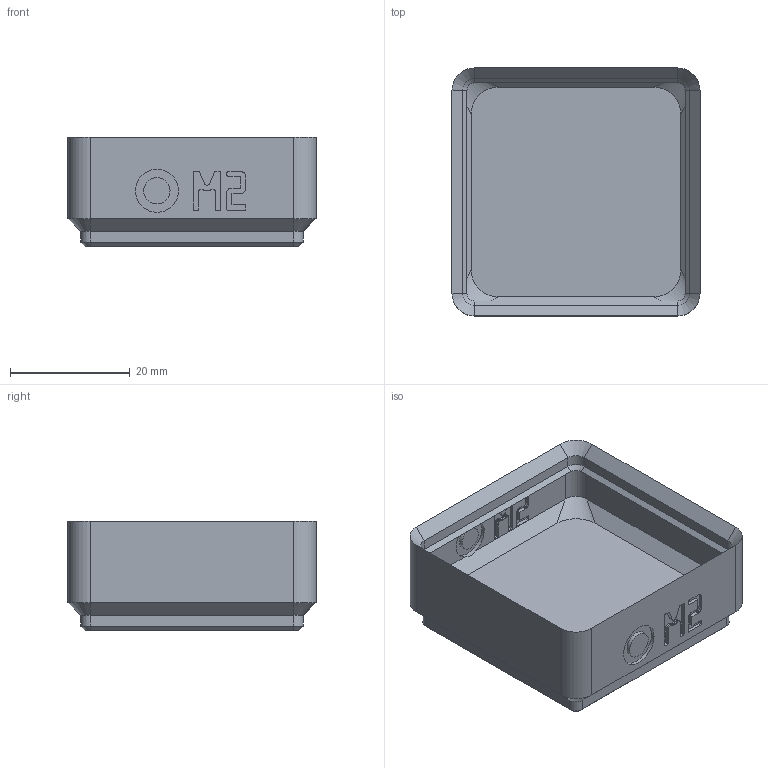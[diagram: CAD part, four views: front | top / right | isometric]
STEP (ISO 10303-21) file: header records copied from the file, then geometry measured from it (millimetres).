
FILE_DESCRIPTION(('Open CASCADE Model'),'2;1');
FILE_NAME('bin_wshr_m2','2026-11-16T17:21:38',('Author'),('Open CASCADE' ),'Open CASCADE STEP processor 8.0','build123d','Unknown');
FILE_SCHEMA(('AUTOMOTIVE_DESIGN { 1 0 10303 214 1 1 1 1 }'));
Length unit declared in the file: millimetre
Products named in the file (1): bin_wshr_m2
Bounding box: 41.5 x 41.5 x 18.4 mm (x, y, z)
Volume: 10969.8 mm3; surface area: 8327.5 mm2
Topology: 1 solids, 1 shells, 572 faces, 1606 edges, 1052 vertices
Faces by surface type: plane 520, cylinder 28, cone 16, bspline 8
Full cylindrical faces by diameter (mm): 3.2 x4, 3.846 x1, 4.4 x1, 6.5 x4, 6.646 x1, 7.2 x1
Entity records: 37927 total; most frequent: CARTESIAN_POINT 7724, DIRECTION 4899, LINE 3591, VECTOR 3591, ORIENTED_EDGE 3212, PCURVE 3212, DEFINITIONAL_REPRESENTATION 3212, EDGE_CURVE 1606
